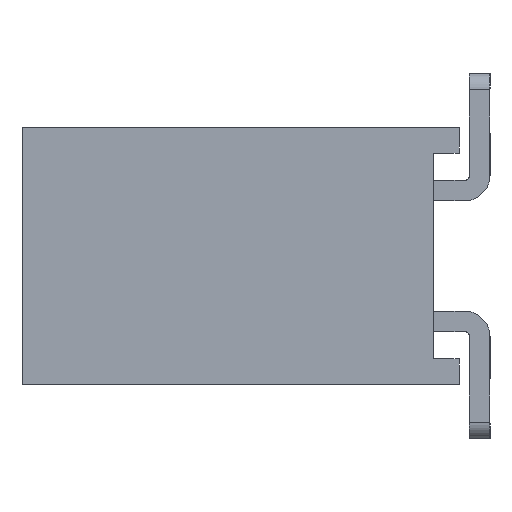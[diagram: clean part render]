
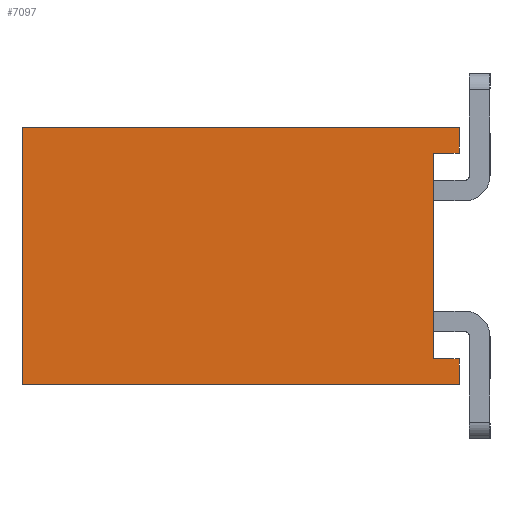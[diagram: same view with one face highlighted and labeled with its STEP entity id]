
A CAD part, left-side view. The second image highlights one B-rep face of the part: STEP entity #7097.
In plain terms, the highlighted planar face has unit normal (-1, 0, 0).
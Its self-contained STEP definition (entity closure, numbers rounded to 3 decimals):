
#271=FACE_OUTER_BOUND('',#641,.T.);
#641=EDGE_LOOP('',(#4807,#4808,#4809,#4810,#4811,#4812,#4813,#4814));
#1107=LINE('',#10075,#2051);
#1108=LINE('',#10077,#2052);
#1109=LINE('',#10079,#2053);
#1110=LINE('',#10081,#2054);
#1111=LINE('',#10083,#2055);
#1112=LINE('',#10085,#2056);
#1113=LINE('',#10087,#2057);
#1114=LINE('',#10088,#2058);
#2051=VECTOR('',#8133,10.);
#2052=VECTOR('',#8134,10.);
#2053=VECTOR('',#8135,10.);
#2054=VECTOR('',#8136,10.);
#2055=VECTOR('',#8137,10.);
#2056=VECTOR('',#8138,10.);
#2057=VECTOR('',#8139,10.);
#2058=VECTOR('',#8140,10.);
#2967=VERTEX_POINT('',#10073);
#2968=VERTEX_POINT('',#10074);
#2969=VERTEX_POINT('',#10076);
#2970=VERTEX_POINT('',#10078);
#2971=VERTEX_POINT('',#10080);
#2972=VERTEX_POINT('',#10082);
#2973=VERTEX_POINT('',#10084);
#2974=VERTEX_POINT('',#10086);
#3663=EDGE_CURVE('',#2967,#2968,#1107,.T.);
#3664=EDGE_CURVE('',#2967,#2969,#1108,.T.);
#3665=EDGE_CURVE('',#2969,#2970,#1109,.T.);
#3666=EDGE_CURVE('',#2971,#2970,#1110,.T.);
#3667=EDGE_CURVE('',#2972,#2971,#1111,.T.);
#3668=EDGE_CURVE('',#2972,#2973,#1112,.T.);
#3669=EDGE_CURVE('',#2974,#2973,#1113,.T.);
#3670=EDGE_CURVE('',#2968,#2974,#1114,.T.);
#4807=ORIENTED_EDGE('',*,*,#3663,.F.);
#4808=ORIENTED_EDGE('',*,*,#3664,.T.);
#4809=ORIENTED_EDGE('',*,*,#3665,.T.);
#4810=ORIENTED_EDGE('',*,*,#3666,.F.);
#4811=ORIENTED_EDGE('',*,*,#3667,.F.);
#4812=ORIENTED_EDGE('',*,*,#3668,.T.);
#4813=ORIENTED_EDGE('',*,*,#3669,.F.);
#4814=ORIENTED_EDGE('',*,*,#3670,.F.);
#6781=PLANE('',#7499);
#7097=ADVANCED_FACE('',(#271),#6781,.T.);
#7499=AXIS2_PLACEMENT_3D('',#10072,#8131,#8132);
#8131=DIRECTION('center_axis',(-1.,0.,0.));
#8132=DIRECTION('ref_axis',(0.,0.,1.));
#8133=DIRECTION('',(0.,1.,0.));
#8134=DIRECTION('',(0.,0.,1.));
#8135=DIRECTION('',(0.,1.,0.));
#8136=DIRECTION('',(0.,0.,1.));
#8137=DIRECTION('',(0.,1.,0.));
#8138=DIRECTION('',(0.,0.,1.));
#8139=DIRECTION('',(0.,-1.,0.));
#8140=DIRECTION('',(0.,0.,-1.));
#10072=CARTESIAN_POINT('Origin',(-12.7,0.,-5.));
#10073=CARTESIAN_POINT('',(-12.7,0.,-0.5));
#10074=CARTESIAN_POINT('',(-12.7,0.5,-0.5));
#10075=CARTESIAN_POINT('',(-12.7,0.,-0.5));
#10076=CARTESIAN_POINT('',(-12.7,0.,0.));
#10077=CARTESIAN_POINT('',(-12.7,0.,-5.));
#10078=CARTESIAN_POINT('',(-12.7,8.5,0.));
#10079=CARTESIAN_POINT('',(-12.7,0.,0.));
#10080=CARTESIAN_POINT('',(-12.7,8.5,-5.));
#10081=CARTESIAN_POINT('',(-12.7,8.5,-5.));
#10082=CARTESIAN_POINT('',(-12.7,0.,-5.));
#10083=CARTESIAN_POINT('',(-12.7,0.,-5.));
#10084=CARTESIAN_POINT('',(-12.7,0.,-4.5));
#10085=CARTESIAN_POINT('',(-12.7,0.,-5.));
#10086=CARTESIAN_POINT('',(-12.7,0.5,-4.5));
#10087=CARTESIAN_POINT('',(-12.7,0.,-4.5));
#10088=CARTESIAN_POINT('',(-12.7,0.5,-1.099));
